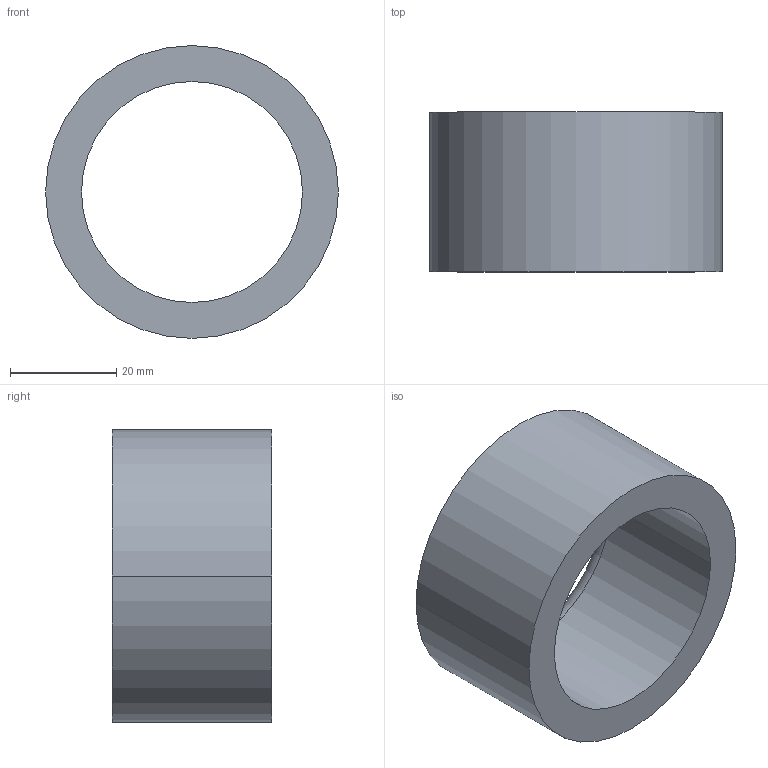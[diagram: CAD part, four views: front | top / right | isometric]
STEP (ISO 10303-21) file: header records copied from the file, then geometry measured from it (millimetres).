
FILE_DESCRIPTION (( 'STEP AP203' ), '1' );
FILE_NAME ('30800.WPP55L41.5.step', '2019-01-23T22:56:09', ( '' ), ( '' ), 'SwSTEP 2.0', 'SolidWorks 2017', '' );
FILE_SCHEMA (( 'CONFIG_CONTROL_DESIGN' ));
Length unit declared in the file: millimetre
Products named in the file (1): 30800.WPP55L41.5
Bounding box: 55 x 30 x 55 mm (x, y, z)
Volume: 30339.7 mm3; surface area: 10950.9 mm2
Topology: 1 solids, 1 shells, 8 faces, 16 edges, 10 vertices
Faces by surface type: cylinder 4, torus 2, plane 2
Entity records: 297 total; most frequent: DIRECTION 46, CARTESIAN_POINT 35, ORIENTED_EDGE 32, AXIS2_PLACEMENT_3D 21, EDGE_CURVE 16, CIRCLE 12, VERTEX_POINT 10, EDGE_LOOP 10
